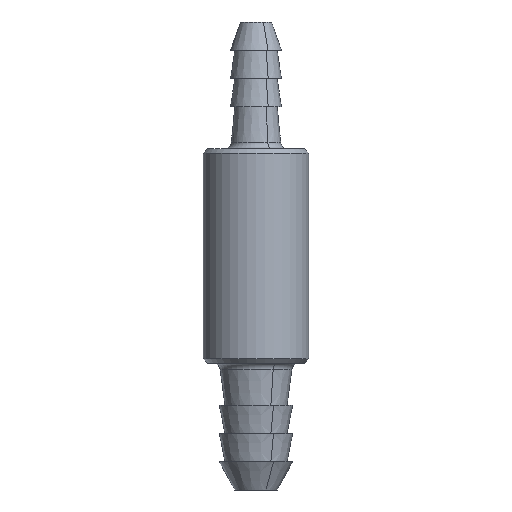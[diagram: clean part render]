
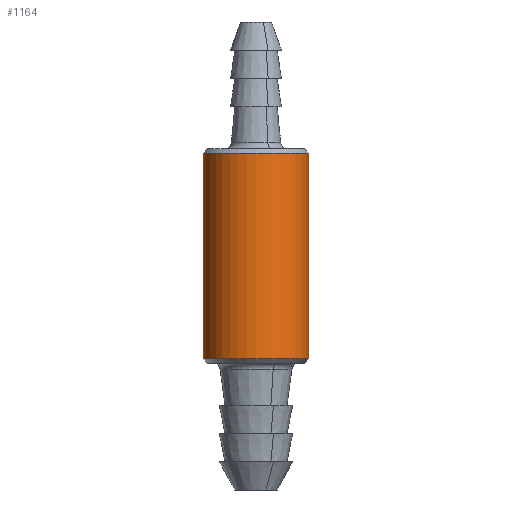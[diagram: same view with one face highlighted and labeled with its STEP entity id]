
A CAD part, front view. The second image highlights one B-rep face of the part: STEP entity #1164.
In plain terms, the highlighted cylindrical face has radius 3.75 mm (diameter 7.5 mm), a partial arc.
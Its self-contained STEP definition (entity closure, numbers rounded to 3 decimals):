
#408=CARTESIAN_POINT('Vertex',(-3.75,0.,0.)) ;
#453=CARTESIAN_POINT('Vertex',(3.75,0.,0.)) ;
#997=CARTESIAN_POINT('Axis2P3D Location',(0.,0.,0.)) ;
#1002=CARTESIAN_POINT('Line Origine',(3.75,0.,0.)) ;
#1006=CARTESIAN_POINT('Vertex',(3.75,0.,-7.3)) ;
#1013=CARTESIAN_POINT('Vertex',(-3.75,0.,-7.3)) ;
#1016=CARTESIAN_POINT('Line Origine',(-3.75,0.,0.)) ;
#1029=CARTESIAN_POINT('Line Origine',(-3.75,0.,0.)) ;
#1033=CARTESIAN_POINT('Vertex',(-3.75,0.,7.3)) ;
#1040=CARTESIAN_POINT('Vertex',(3.75,0.,7.3)) ;
#1043=CARTESIAN_POINT('Line Origine',(3.75,0.,0.)) ;
#1139=CARTESIAN_POINT('Axis2P3D Location',(0.,0.,-7.3)) ;
#1151=CARTESIAN_POINT('Axis2P3D Location',(0.,0.,7.3)) ;
#998=DIRECTION('Axis2P3D Direction',(0.,0.,1.)) ;
#999=DIRECTION('Axis2P3D XDirection',(1.,0.,0.)) ;
#1003=DIRECTION('Vector Direction',(0.,0.,1.)) ;
#1017=DIRECTION('Vector Direction',(0.,0.,1.)) ;
#1030=DIRECTION('Vector Direction',(0.,0.,1.)) ;
#1044=DIRECTION('Vector Direction',(0.,0.,1.)) ;
#1140=DIRECTION('Axis2P3D Direction',(0.,0.,1.)) ;
#1152=DIRECTION('Axis2P3D Direction',(0.,0.,1.)) ;
#1000=AXIS2_PLACEMENT_3D('Cylinder Axis2P3D',#997,#998,#999) ;
#1141=AXIS2_PLACEMENT_3D('Circle Axis2P3D',#1139,#1140,$) ;
#1153=AXIS2_PLACEMENT_3D('Circle Axis2P3D',#1151,#1152,$) ;
#1157=ORIENTED_EDGE('',*,*,#1008,.T.) ;
#1158=ORIENTED_EDGE('',*,*,#1047,.T.) ;
#1159=ORIENTED_EDGE('',*,*,#1155,.F.) ;
#1160=ORIENTED_EDGE('',*,*,#1035,.F.) ;
#1161=ORIENTED_EDGE('',*,*,#1020,.F.) ;
#1162=ORIENTED_EDGE('',*,*,#1143,.T.) ;
#1004=VECTOR('Line Direction',#1003,1.) ;
#1018=VECTOR('Line Direction',#1017,1.) ;
#1031=VECTOR('Line Direction',#1030,1.) ;
#1045=VECTOR('Line Direction',#1044,1.) ;
#1164=ADVANCED_FACE('\X2\96F64EF651E04F554F53\X0\',(#1163),#1001,.T.) ;
#1142=CIRCLE('generated circle',#1141,3.75) ;
#1154=CIRCLE('generated circle',#1153,3.75) ;
#1001=CYLINDRICAL_SURFACE('generated cylinder',#1000,3.75) ;
#1008=EDGE_CURVE('',#1007,#454,#1005,.T.) ;
#1020=EDGE_CURVE('',#1014,#409,#1019,.T.) ;
#1035=EDGE_CURVE('',#409,#1034,#1032,.T.) ;
#1047=EDGE_CURVE('',#454,#1041,#1046,.T.) ;
#1143=EDGE_CURVE('',#1014,#1007,#1142,.T.) ;
#1155=EDGE_CURVE('',#1034,#1041,#1154,.T.) ;
#1156=EDGE_LOOP('',(#1157,#1158,#1159,#1160,#1161,#1162)) ;
#1163=FACE_OUTER_BOUND('',#1156,.T.) ;
#1005=LINE('Line',#1002,#1004) ;
#1019=LINE('Line',#1016,#1018) ;
#1032=LINE('Line',#1029,#1031) ;
#1046=LINE('Line',#1043,#1045) ;
#409=VERTEX_POINT('',#408) ;
#454=VERTEX_POINT('',#453) ;
#1007=VERTEX_POINT('',#1006) ;
#1014=VERTEX_POINT('',#1013) ;
#1034=VERTEX_POINT('',#1033) ;
#1041=VERTEX_POINT('',#1040) ;
